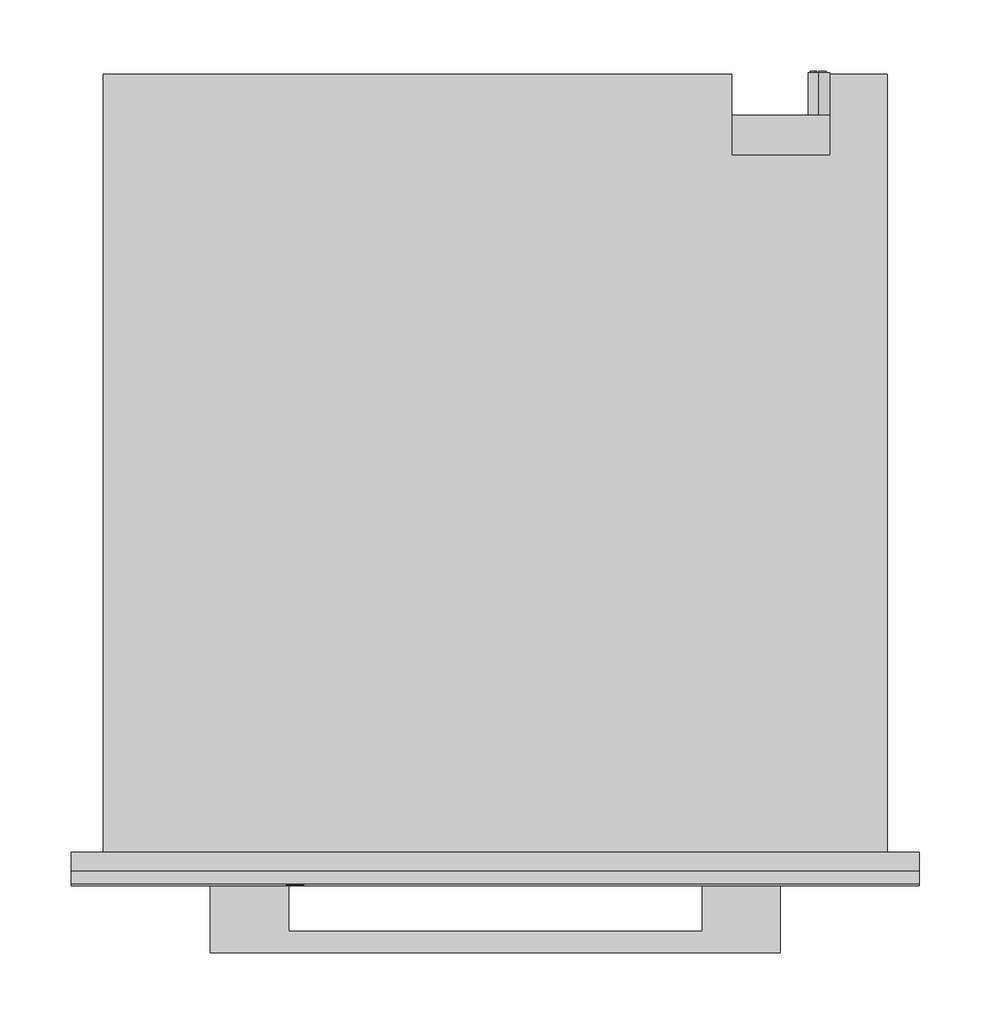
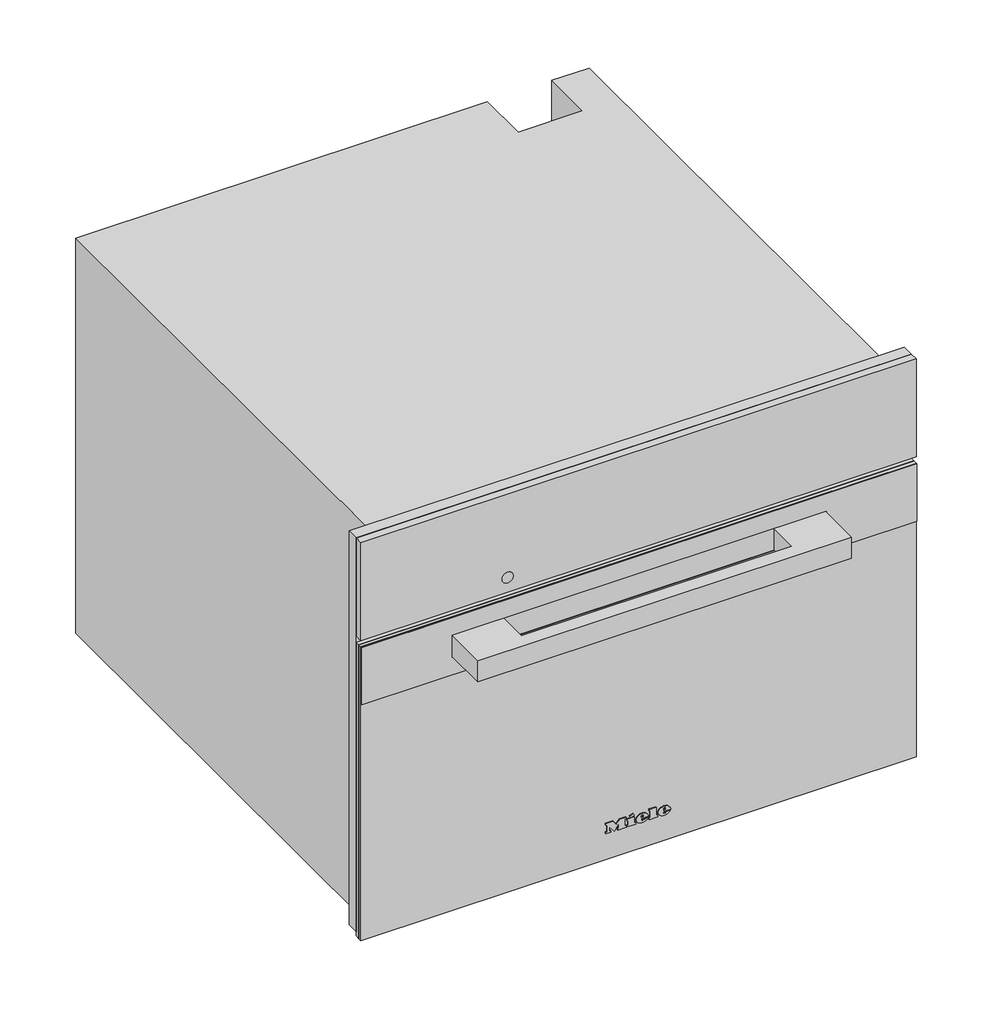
# Not in any storey: 1 proxy.
"""IFC4 building model written with IfcOpenShell, lengths in millimetres."""

import ifcopenshell
import ifcopenshell.guid

model = None  # the IFC model being written
_history = None  # IfcOwnerHistory: only IFC2X3 demands one
_inside = {}  # id of a spatial element -> (the spatial element, [elements in it])
_under = {}  # id of a project, library or spatial element -> (it, [spatial elements below it])
_declared = {}  # id of a project -> (the project, [libraries it declares])
_typed = {}  # id of a type object -> (the type object, [elements of that type])
_made_of = {}  # id of a material, layer set ... -> (it, [elements and type objects made of it])


def new_model(schema):
    """Start an empty IFC model of exactly this schema.

    Asked for "IFC4X3", IfcOpenShell would pick the latest addendum, in which some entities
    have other attributes; the version numbers below select the first issue.
    IFC2X3 requires an IfcOwnerHistory on every rooted entity: one is made here for all.
    """
    global model, _history
    if schema == "IFC4X3":
        model = ifcopenshell.file(schema_version=(4, 3, 0, 0))
    else:
        model = ifcopenshell.file(schema=schema)
    _inside.clear()
    _under.clear()
    _declared.clear()
    _typed.clear()
    _made_of.clear()
    _history = None
    if model.schema == "IFC2X3":
        org = make("IfcOrganization", Name="unknown")
        user = make(
            "IfcPersonAndOrganization",
            ThePerson=make("IfcPerson", FamilyName="unknown"),
            TheOrganization=org,
        )
        app = make(
            "IfcApplication",
            ApplicationDeveloper=org,
            Version="unknown",
            ApplicationFullName="unknown",
            ApplicationIdentifier="unknown",
        )
        _history = make(
            "IfcOwnerHistory",
            OwningUser=user,
            OwningApplication=app,
            ChangeAction="ADDED",
            CreationDate=0,
        )
    return model


def make(cls, **values):
    """One entity of the class cls with the attributes given. An attribute that is None is left unset."""
    return model.create_entity(
        cls, **{name: value for name, value in values.items() if value is not None}
    )


def rooted(cls, **values):
    """An entity with a GlobalId (a new one), such as an element, a storey or a relation."""
    return make(cls, GlobalId=ifcopenshell.guid.new(), OwnerHistory=_history, **values)


def si_unit(unit_type, name, prefix=None):
    """IfcSIUnit, for example si_unit("LENGTHUNIT", "METRE", prefix="MILLI")."""
    return make("IfcSIUnit", UnitType=unit_type, Prefix=prefix, Name=name)


def assignment(units):
    """IfcUnitAssignment: the units of a project."""
    return None if units is None else make("IfcUnitAssignment", Units=units)


def point(xyz):
    """IfcCartesianPoint."""
    return None if xyz is None else make("IfcCartesianPoint", Coordinates=xyz)


def direction(xyz):
    """IfcDirection."""
    return None if xyz is None else make("IfcDirection", DirectionRatios=xyz)


def frame(location, z_axis=None, x_axis=None):
    """IfcAxis2Placement3D, a coordinate frame: its origin and axes. An axis left out is left unset."""
    return make(
        "IfcAxis2Placement3D",
        Location=point(location),
        Axis=direction(z_axis),
        RefDirection=direction(x_axis),
    )


def frame_2d(location, x_axis=None):
    """IfcAxis2Placement2D, a coordinate frame in the plane: its origin and x axis."""
    return make(
        "IfcAxis2Placement2D", Location=point(location), RefDirection=direction(x_axis)
    )


def origin():
    """The frame at (0, 0, 0) with its axes left unset."""
    return frame((0.0, 0.0, 0.0))


def place(relative_to, where):
    """IfcLocalPlacement: puts the frame where relative to a parent placement (None: the world)."""
    return make(
        "IfcLocalPlacement", PlacementRelTo=relative_to, RelativePlacement=where
    )


def context(
    kind, dimensions, precision=None, world=None, true_north=None, identifier=None
):
    """IfcGeometricRepresentationContext, for example the 3D "Model" context."""
    return make(
        "IfcGeometricRepresentationContext",
        ContextIdentifier=identifier,
        ContextType=kind,
        CoordinateSpaceDimension=dimensions,
        Precision=precision,
        WorldCoordinateSystem=world,
        TrueNorth=true_north,
    )


def project(units=None, contexts=None):
    """IfcProject with its units and contexts."""
    return rooted(
        "IfcProject",
        Name="project",
        RepresentationContexts=contexts,
        UnitsInContext=assignment(units),
    )


def spatial(cls, under=None, at=None, **own):
    """A site, building, storey or space (cls), placed at a placement, below another one or the project."""
    s = rooted(cls, ObjectPlacement=at, **own)
    if under is not None:
        _under.setdefault(under.id(), (under, []))[1].append(s)
    return s


def polyline(points):
    """IfcPolyline through the points."""
    return make("IfcPolyline", Points=[point(p) for p in points])


def circle_curve(where, radius):
    """IfcCircle in the frame where."""
    return make("IfcCircle", Position=where, Radius=radius)


def ellipse_curve(where, semi_axis1, semi_axis2):
    """IfcEllipse in the frame where."""
    return make(
        "IfcEllipse", Position=where, SemiAxis1=semi_axis1, SemiAxis2=semi_axis2
    )


def trimmed(basis, trim1, trim2, sense, master):
    """IfcTrimmedCurve: the piece of a basis curve between two trims."""
    return make(
        "IfcTrimmedCurve",
        BasisCurve=basis,
        Trim1=trim1,
        Trim2=trim2,
        SenseAgreement=sense,
        MasterRepresentation=master,
    )


def segment(curve, same_sense, transition):
    """IfcCompositeCurveSegment."""
    return make(
        "IfcCompositeCurveSegment",
        Transition=transition,
        SameSense=same_sense,
        ParentCurve=curve,
    )


def composite_curve(segments, self_intersect=None):
    """IfcCompositeCurve: segments joined end to end."""
    return make("IfcCompositeCurve", Segments=segments, SelfIntersect=self_intersect)


def outline(outer, holes=None, kind="AREA"):
    """IfcArbitraryClosedProfileDef: a profile drawn as a closed curve; with holes, ...WithVoids."""
    if holes is None:
        return make("IfcArbitraryClosedProfileDef", ProfileType=kind, OuterCurve=outer)
    return make(
        "IfcArbitraryProfileDefWithVoids",
        ProfileType=kind,
        OuterCurve=outer,
        InnerCurves=holes,
    )


def extrude(swept, where, along, depth):
    """IfcExtrudedAreaSolid: the profile swept, set in the frame where, extruded along a direction by depth."""
    return make(
        "IfcExtrudedAreaSolid",
        SweptArea=swept,
        Position=where,
        ExtrudedDirection=direction(along),
        Depth=depth,
    )


def faces_of(points, faces, orient=None, outer=None):
    """IfcFace entities. A face is a list of loops; a loop is a list of indices into points, from 0.

    orient and outer hold one flag for each loop. By default every Orientation is true, the
    first loop of a face is its IfcFaceOuterBound and the others are IfcFaceBound.
    """
    made = []
    for i, loops in enumerate(faces):
        bounds = []
        for j, loop in enumerate(loops):
            is_outer = j == 0 if outer is None else outer[i][j]
            bounds.append(
                make(
                    "IfcFaceOuterBound" if is_outer else "IfcFaceBound",
                    Bound=make("IfcPolyLoop", Polygon=[points[k] for k in loop]),
                    Orientation=True if orient is None else orient[i][j],
                )
            )
        made.append(make("IfcFace", Bounds=bounds))
    return made


def faceted_brep(points, faces, orient=None, outer=None, voids=None):
    """IfcFacetedBrep: a solid bounded by flat faces; with voids (closed shells), ...WithVoids."""
    shared = [point(p) for p in points]
    hull = make("IfcClosedShell", CfsFaces=faces_of(shared, faces, orient, outer))
    if voids is None:
        return make("IfcFacetedBrep", Outer=hull)
    return make(
        "IfcFacetedBrepWithVoids",
        Outer=hull,
        Voids=[
            make(cls, CfsFaces=faces_of(shared, fs, o, b)) for cls, fs, o, b in voids
        ],
    )


def shape(context_of_items, identifier, shape_type, items):
    """IfcShapeRepresentation: the items that make up one representation, for example the "Body"."""
    return make(
        "IfcShapeRepresentation",
        ContextOfItems=context_of_items,
        RepresentationIdentifier=identifier,
        RepresentationType=shape_type,
        Items=items,
    )


def source(mapping_origin, context_of_items, identifier, shape_type, items):
    """IfcRepresentationMap: a shape defined once, which mapped items show again and again."""
    return make(
        "IfcRepresentationMap",
        MappingOrigin=mapping_origin,
        MappedRepresentation=shape(context_of_items, identifier, shape_type, items),
    )


def transform(
    local_origin,
    x_axis=None,
    y_axis=None,
    z_axis=None,
    scale=None,
    scale2=None,
    scale3=None,
    uniform=True,
):
    """IfcCartesianTransformationOperator3D, or its non-uniform kind. x_axis, y_axis, z_axis: its Axis1, 2, 3."""
    if uniform:
        return make(
            "IfcCartesianTransformationOperator3D",
            Axis1=direction(x_axis),
            Axis2=direction(y_axis),
            LocalOrigin=point(local_origin),
            Scale=scale,
            Axis3=direction(z_axis),
        )
    return make(
        "IfcCartesianTransformationOperator3DnonUniform",
        Axis1=direction(x_axis),
        Axis2=direction(y_axis),
        LocalOrigin=point(local_origin),
        Scale=scale,
        Axis3=direction(z_axis),
        Scale2=scale2,
        Scale3=scale3,
    )


def mapped(mapping_source, mapping_target):
    """IfcMappedItem: shows the shape of a source again, moved by a transform."""
    return make(
        "IfcMappedItem", MappingSource=mapping_source, MappingTarget=mapping_target
    )


def made_of(thing, what):
    """Note that an element or type object is made of a material, layer set ...; save() writes the relation."""
    if what is not None:
        _made_of.setdefault(what.id(), (what, []))[1].append(thing)
    return thing


def element(
    cls,
    number,
    at=None,
    inside=None,
    cuts=None,
    type_object=None,
    material=None,
    context=None,
    identifier="Body",
    shape_type=None,
    held_by="IfcProductDefinitionShape",
    body=None,
    shapes=None,
    **own,
):
    """One element of the class cls, such as IfcWall. Its Tag is "e" and its number.

    at: its placement. inside: the storey or other place that contains it. cuts: it is an
    opening in that element (IfcRelVoidsElement). A single representation is given by context,
    identifier, shape_type and body (its items); several are given by shapes. held_by: the class
    of the entity that holds the representations. save() writes the other relations.
    """
    e = rooted(cls, Tag="e%d" % number, ObjectPlacement=at, **own)
    if body is not None:
        shapes = [shape(context, identifier, shape_type, body)]
    if shapes is not None:
        e.Representation = make(held_by, Representations=shapes)
    if inside is not None:
        _inside.setdefault(inside.id(), (inside, []))[1].append(e)
    if cuts is not None:
        rooted(
            "IfcRelVoidsElement", RelatingBuildingElement=cuts, RelatedOpeningElement=e
        )
    if type_object is not None:
        _typed.setdefault(type_object.id(), (type_object, []))[1].append(e)
    return made_of(e, material)


def aggregate(whole, parts):
    """IfcRelAggregates: a whole, such as a stair, and the parts it consists of."""
    return rooted("IfcRelAggregates", RelatingObject=whole, RelatedObjects=parts)


def save(model, path):
    """Write the relations noted so far, then the file.

    IfcRelAggregates (storeys below a building ...), IfcRelContainedInSpatialStructure (elements
    in a storey), IfcRelDefinesByType, IfcRelAssociatesMaterial and IfcRelDeclares: one each for
    every whole, place, type object, material and project.
    """
    for whole, parts in _under.values():
        aggregate(whole, parts)
    for where, things in _inside.values():
        rooted(
            "IfcRelContainedInSpatialStructure",
            RelatedElements=things,
            RelatingStructure=where,
        )
    for kind, things in _typed.values():
        rooted("IfcRelDefinesByType", RelatedObjects=things, RelatingType=kind)
    for what, things in _made_of.values():
        rooted("IfcRelAssociatesMaterial", RelatedObjects=things, RelatingMaterial=what)
    for by, libraries in _declared.values():
        rooted("IfcRelDeclares", RelatingContext=by, RelatedDefinitions=libraries)
    model.write(path)


def plane_surface(at):
    """IfcPlane: the flat surface through the origin of the frame at, square to its z axis."""
    return make("IfcPlane", Position=at)


def cylinder_surface(at, radius):
    """IfcCylindricalSurface: all points at the distance radius from the z axis of the frame at."""
    return make("IfcCylindricalSurface", Position=at, Radius=radius)


def revolved_surface(curve, axis_point, axis_direction):
    """IfcSurfaceOfRevolution: the curve turned about the line through axis_point along axis_direction."""
    return make(
        "IfcSurfaceOfRevolution",
        SweptCurve=make("IfcArbitraryOpenProfileDef", ProfileType="CURVE", Curve=curve),
        AxisPosition=make("IfcAxis1Placement", Location=point(axis_point), Axis=direction(axis_direction)),
    )


def extruded_surface(curve, direction_of_extrusion, depth):
    """IfcSurfaceOfLinearExtrusion: the curve pushed along a direction by depth."""
    return make(
        "IfcSurfaceOfLinearExtrusion",
        SweptCurve=make("IfcArbitraryOpenProfileDef", ProfileType="CURVE", Curve=curve),
        ExtrudedDirection=direction(direction_of_extrusion),
        Depth=depth,
    )


def advanced_brep(points, edges, surfaces, faces):
    """IfcAdvancedBrep: a solid bounded by faces that lie on surfaces and meet in shared edges.

    An edge is (start, end): straight between two places in points (the first is 0);
    or (start, end, curve); or (start, end, curve, False) where it runs against its curve.
    A face is (place in surfaces, loops), or (place, loops, False) where it looks against
    its surface's normal. A loop lists edges by number (the first is 1), with a minus sign
    where the edge is run from its end to its start. The first loop is the outer one.
    """
    corners = [point(p) for p in points]
    vertices = [make("IfcVertexPoint", VertexGeometry=c) for c in corners]
    made = []
    for start, end, *more in edges:
        made.append(
            make(
                "IfcEdgeCurve",
                EdgeStart=vertices[start],
                EdgeEnd=vertices[end],
                EdgeGeometry=more[0] if more else make("IfcPolyline", Points=[corners[start], corners[end]]),
                SameSense=more[1] if len(more) > 1 else True,
            )
        )
    hull = []
    for where, loops, *sense in faces:
        bounds = []
        for j, loop in enumerate(loops):
            ring = [make("IfcOrientedEdge", EdgeElement=made[abs(k) - 1], Orientation=k > 0) for k in loop]
            bounds.append(
                make(
                    "IfcFaceOuterBound" if j == 0 else "IfcFaceBound",
                    Bound=make("IfcEdgeLoop", EdgeList=ring),
                    Orientation=True,
                )
            )
        hull.append(make("IfcAdvancedFace", Bounds=bounds, FaceSurface=surfaces[where], SameSense=sense[0] if sense else True))
    return make("IfcAdvancedBrep", Outer=make("IfcClosedShell", CfsFaces=hull))


def specialty_equipment_984b1e7c(model_context):
    return source(origin(), model_context, "Body", "SolidModel", [
        extrude(outline(polyline([(455.0, 297.5), (455.0, -297.5), (9.0, -297.5), (9.0, 297.5), (455.0, 297.5)]), holes=[polyline([(344.0, -272.5), (344.0, 272.5), (27.0, 272.5), (27.0, -272.5), (344.0, -272.5)])]), frame((0.0, -13.0, 0.0), z_axis=(0.0, 1.0, 0.0), x_axis=(0.0, 0.0, 1.0)), (0.0, 0.0, 1.0), 13.0),
        advanced_brep(
        [(227.0, 547.0, 255.5), (227.0, 547.0, 240.5), (221.4098301, 547.0, 243.0), (225.5, 547.0, 243.0), (225.5, 547.0, 253.0), (224.4955303, 547.0, 253.0), (224.4955303, 547.0, 244.0), (221.0315043, 547.0, 244.0), (221.0315043, 547.0, 243.4582978), (232.0, 547.0, 243.0), (232.0, 547.0, 253.0), (227.0, 547.0, 253.0), (227.0, 547.0, 252.0), (231.0, 547.0, 252.0), (231.0, 547.0, 248.5), (228.0, 547.0, 248.5), (228.0, 547.0, 247.5), (231.0, 547.0, 247.5), (231.0, 547.0, 244.0), (227.0, 547.0, 244.0), (227.0, 547.0, 243.0), (227.0, 517.0, 240.5), (227.0, 517.0, 255.5), (232.0, 548.0, 253.0), (232.0, 548.0, 243.0), (227.0, 548.0, 243.0), (227.0, 548.0, 244.0), (231.0, 548.0, 244.0), (231.0, 548.0, 247.5), (228.0, 548.0, 247.5), (228.0, 548.0, 248.5), (231.0, 548.0, 248.5), (231.0, 548.0, 252.0), (227.0, 548.0, 252.0), (227.0, 548.0, 253.0), (225.5, 548.0, 243.0), (221.0315043, 548.0, 243.0), (221.0315043, 548.0, 244.0), (224.4955303, 548.0, 244.0), (224.4955303, 548.0, 253.0), (225.5, 548.0, 253.0), (221.0315043, 547.0, 243.0)],
        [
            (0, 1, circle_curve(frame((227.0, 547.0, 248.0), z_axis=(0.0, 1.0, 0.0), x_axis=(0.0, 0.0, 1.0)), 7.5)),
            (1, 2, circle_curve(frame((227.0, 547.0, 248.0), z_axis=(0.0, 1.0, 0.0), x_axis=(0.0, 0.0, 1.0)), 7.5)),
            (2, 3),
            (3, 4),
            (4, 5),
            (5, 6),
            (6, 7),
            (7, 8),
            (8, 0, circle_curve(frame((227.0, 547.0, 248.0), z_axis=(0.0, 1.0, 0.0), x_axis=(0.0, 0.0, 1.0)), 7.5)),
            (9, 10),
            (10, 11),
            (11, 12),
            (12, 13),
            (13, 14),
            (14, 15),
            (15, 16),
            (16, 17),
            (17, 18),
            (18, 19),
            (19, 20),
            (20, 9),
            (21, 22, circle_curve(frame((227.0, 517.0, 248.0), z_axis=(0.0, -1.0, 0.0), x_axis=(0.0, 0.0, 1.0)), 7.5)),
            (22, 21, circle_curve(frame((227.0, 517.0, 248.0), z_axis=(0.0, -1.0, 0.0), x_axis=(0.0, 0.0, 1.0)), 7.5)),
            (0, 22),
            (21, 1),
            (8, 2, circle_curve(frame((227.0, 547.0, 248.0), z_axis=(0.0, -1.0, 0.0), x_axis=(0.0, 0.0, 1.0)), 7.5)),
            (23, 24),
            (24, 25),
            (25, 26),
            (26, 27),
            (27, 28),
            (28, 29),
            (29, 30),
            (30, 31),
            (31, 32),
            (32, 33),
            (33, 34),
            (34, 23),
            (35, 36),
            (36, 37),
            (37, 38),
            (38, 39),
            (39, 40),
            (40, 35),
            (8, 41),
            (41, 2),
            (23, 10),
            (9, 24),
            (20, 25),
            (19, 26),
            (18, 27),
            (17, 28),
            (16, 29),
            (15, 30),
            (14, 31),
            (13, 32),
            (12, 33),
            (11, 34),
            (35, 3),
            (41, 36),
            (7, 37),
            (6, 38),
            (5, 39),
            (4, 40),
        ],
        [
            plane_surface(frame((227.0, 547.0, 255.5), z_axis=(0.0, 1.0, 0.0), x_axis=(1.0, 0.0, 0.0))),
            plane_surface(frame((227.0, 517.0, 255.5), z_axis=(0.0, -1.0, 0.0), x_axis=(-1.0, 0.0, 0.0))),
            cylinder_surface(frame((227.0, 547.0, 248.0), z_axis=(0.0, -1.0, 0.0), x_axis=(0.0, 0.0, 1.0)), 7.5),
            plane_surface(frame((232.0, 548.0, 253.0), z_axis=(0.0, 1.0, 0.0), x_axis=(0.0, 0.0, -1.0))),
            plane_surface(frame((232.0, 547.0, 253.0), z_axis=(0.0, -1.0, 0.0), x_axis=(0.0, 0.0, 1.0))),
            plane_surface(frame((232.0, 548.0, 253.0), z_axis=(1.0, 0.0, 0.0), x_axis=(0.0, -1.0, 0.0))),
            plane_surface(frame((232.0, 548.0, 243.0), z_axis=(0.0, 0.0, -1.0), x_axis=(0.0, -1.0, 0.0))),
            plane_surface(frame((227.0, 548.0, 243.0), z_axis=(-1.0, 0.0, 0.0), x_axis=(0.0, -1.0, 0.0))),
            plane_surface(frame((227.0, 548.0, 244.0), z_axis=(0.0, 0.0, 1.0), x_axis=(0.0, -1.0, 0.0))),
            plane_surface(frame((231.0, 548.0, 244.0), z_axis=(-1.0, 0.0, 0.0), x_axis=(0.0, -1.0, 0.0))),
            plane_surface(frame((231.0, 548.0, 247.5), z_axis=(0.0, 0.0, -1.0), x_axis=(0.0, -1.0, 0.0))),
            plane_surface(frame((228.0, 548.0, 247.5), z_axis=(-1.0, 0.0, 0.0), x_axis=(0.0, -1.0, 0.0))),
            plane_surface(frame((228.0, 548.0, 248.5), z_axis=(0.0, 0.0, 1.0), x_axis=(0.0, -1.0, 0.0))),
            plane_surface(frame((231.0, 548.0, 248.5), z_axis=(-1.0, 0.0, 0.0), x_axis=(0.0, -1.0, 0.0))),
            plane_surface(frame((231.0, 548.0, 252.0), z_axis=(0.0, 0.0, -1.0), x_axis=(0.0, -1.0, 0.0))),
            plane_surface(frame((227.0, 548.0, 252.0), z_axis=(-1.0, 0.0, 0.0), x_axis=(0.0, -1.0, 0.0))),
            plane_surface(frame((227.0, 548.0, 253.0), z_axis=(0.0, 0.0, 1.0), x_axis=(0.0, -1.0, 0.0))),
            plane_surface(frame((225.5, 548.0, 243.0), z_axis=(0.0, 0.0, -1.0), x_axis=(0.0, -1.0, 0.0))),
            plane_surface(frame((221.0315043, 548.0, 243.0), z_axis=(-1.0, 0.0, 0.0), x_axis=(0.0, -1.0, 0.0))),
            plane_surface(frame((221.0315043, 548.0, 244.0), z_axis=(0.0, 0.0, 1.0), x_axis=(0.0, -1.0, 0.0))),
            plane_surface(frame((224.4955303, 548.0, 244.0), z_axis=(-1.0, 0.0, 0.0), x_axis=(0.0, -1.0, 0.0))),
            plane_surface(frame((224.4955303, 548.0, 253.0), z_axis=(0.0, 0.0, 1.0), x_axis=(0.0, -1.0, 0.0))),
            plane_surface(frame((225.5, 548.0, 253.0), z_axis=(1.0, 0.0, 0.0), x_axis=(0.0, -1.0, 0.0))),
        ],
        [
            (0, [[1, 2, 3, 4, 5, 6, 7, 8, 9], [10, 11, 12, 13, 14, 15, 16, 17, 18, 19, 20, 21]]),
            (1, [[22, 23]]),
            (2, [[-1, 24, -22, 25]]),
            (2, [[-23, -24, -9, 26, -2, -25]]),
            (3, [[27, 28, 29, 30, 31, 32, 33, 34, 35, 36, 37, 38]]),
            (3, [[39, 40, 41, 42, 43, 44]]),
            (4, [[45, 46, -26]]),
            (5, [[-27, 47, -10, 48]]),
            (6, [[-28, -48, -21, 49]]),
            (7, [[-29, -49, -20, 50]]),
            (8, [[-30, -50, -19, 51]]),
            (9, [[-31, -51, -18, 52]]),
            (10, [[-32, -52, -17, 53]]),
            (11, [[-33, -53, -16, 54]]),
            (12, [[-34, -54, -15, 55]]),
            (13, [[-35, -55, -14, 56]]),
            (14, [[-36, -56, -13, 57]]),
            (15, [[-37, -57, -12, 58]]),
            (16, [[-38, -58, -11, -47]]),
            (17, [[-39, 59, -3, -46, 60]]),
            (18, [[-40, -60, -45, -8, 61]]),
            (19, [[-41, -61, -7, 62]]),
            (20, [[-42, -62, -6, 63]]),
            (21, [[-43, -63, -5, 64]]),
            (22, [[-44, -64, -4, -59]]),
        ],
    ),
        faceted_brep([(-275.0, 546.0, 0.0), (-275.0, 546.0, 448.0), (166.0, 546.0, 448.0), (166.0, 546.0, 0.0), (235.0, 546.0, 448.0), (275.0, 546.0, 448.0), (275.0, 546.0, 338.0), (235.0, 546.0, 338.0), (275.0, 0.0, 448.0), (-275.0, 0.0, 448.0), (-275.0, 0.0, 0.0), (275.0, 0.0, 0.0), (-272.5, 0.0, 344.0), (272.5, 0.0, 344.0), (272.5, 0.0, 27.0), (-272.5, 0.0, 27.0), (235.0, 489.0, 448.0), (166.0, 489.0, 448.0), (166.0, 517.0, 0.0), (275.0, 517.0, 0.0), (275.0, 517.0, 338.0), (272.5, 17.0, 344.0), (-272.5, 17.0, 344.0), (-272.5, 17.0, 27.0), (272.5, 17.0, 27.0), (231.0, 17.0, 307.0), (231.0, 17.0, 65.0), (-231.0, 17.0, 65.0), (-231.0, 17.0, 307.0), (231.0, 411.0, 307.0), (-231.0, 411.0, 307.0), (-231.0, 411.0, 65.0), (231.0, 411.0, 65.0), (235.0, 489.0, 337.0), (166.0, 489.0, 337.0), (166.0, 517.0, 337.0), (235.0, 517.0, 337.0), (235.0, 517.0, 338.0)], [[[0, 1, 2, 3]], [[4, 5, 6, 7]], [[8, 9, 10, 11], [12, 13, 14, 15]], [[9, 8, 5, 4, 16, 17, 2, 1]], [[1, 0, 10, 9]], [[11, 10, 0, 3, 18, 19]], [[8, 11, 19, 20, 6, 5]], [[21, 22, 23, 24], [25, 26, 27, 28]], [[22, 21, 13, 12]], [[23, 22, 12, 15]], [[24, 23, 15, 14]], [[21, 24, 14, 13]], [[29, 30, 31, 32]], [[29, 32, 26, 25]], [[32, 31, 27, 26]], [[31, 30, 28, 27]], [[30, 29, 25, 28]], [[16, 33, 34, 17]], [[17, 34, 35, 18, 3, 2]], [[34, 33, 36, 35]], [[33, 16, 4, 7, 37, 36]], [[37, 20, 19, 18, 35, 36]], [[20, 37, 7, 6]]]),
        advanced_brep(
        [(26.2998, -23.0, 36.7018), (26.2998, -23.0, 37.8532), (33.9264, -23.0, 37.8532), (20.6568, -23.0, 37.8532), (23.7918, -23.0, 34.0), (33.7326, -23.0, 36.7018), (30.2898, -23.0, 36.7018), (27.5766, -23.0, 35.425), (26.2998, -23.0, 39.3124), (26.2998, -23.0, 40.555), (28.2492, -23.0, 40.555), (28.2492, -23.0, 39.3124), (26.2998, -22.0, 36.7018), (27.5766, -22.0, 35.425), (30.2898, -22.0, 36.7018), (33.7326, -22.0, 36.7018), (23.7918, -22.0, 34.0), (20.6568, -22.0, 37.8532), (33.9264, -22.0, 37.8532), (26.2998, -22.0, 37.8532), (26.2998, -22.0, 39.3124), (28.2492, -22.0, 39.3124), (28.2492, -22.0, 40.555), (26.2998, -22.0, 40.555)],
        [
            (0, 1),
            (1, 2),
            (2, 3, ellipse_curve(frame((27.2916, -23.0, 37.8532), z_axis=(0.0, -1.0, 0.0), x_axis=(-1.0, 0.0, 0.0)), 6.6348, 5.4834)),
            (3, 4, circle_curve(frame((25.0686622, -23.0, 38.2408), z_axis=(0.0, -1.0, 0.0), x_axis=(0.0, 0.0, -1.0)), 4.4288556)),
            (4, 5, circle_curve(frame((27.1587808, -23.0, 41.2504), z_axis=(0.0, -1.0, 0.0), x_axis=(0.0, 0.0, -1.0)), 7.9940516)),
            (5, 6),
            (6, 7, circle_curve(frame((28.1338588, -23.0, 37.762), z_axis=(0.0, 1.0, 0.0), x_axis=(0.0, 0.0, -1.0)), 2.4025208)),
            (7, 0, circle_curve(frame((27.5766, -23.0, 36.7018), z_axis=(0.0, 1.0, 0.0), x_axis=(0.0, 0.0, -1.0)), 1.2768)),
            (8, 9),
            (9, 10, circle_curve(frame((27.2745, -23.0, 40.555), z_axis=(0.0, 1.0, 0.0), x_axis=(0.0, 0.0, -1.0)), 0.9747)),
            (10, 11),
            (11, 8),
            (12, 13, circle_curve(frame((27.5766, -22.0, 36.7018), z_axis=(0.0, -1.0, 0.0), x_axis=(0.0, 0.0, -1.0)), 1.2768)),
            (13, 14, circle_curve(frame((28.1338588, -22.0, 37.762), z_axis=(0.0, -1.0, 0.0), x_axis=(0.0, 0.0, -1.0)), 2.4025208)),
            (14, 15),
            (15, 16, circle_curve(frame((27.1587808, -22.0, 41.2504), z_axis=(0.0, 1.0, 0.0), x_axis=(0.0, 0.0, -1.0)), 7.9940516)),
            (16, 17, circle_curve(frame((25.0686622, -22.0, 38.2408), z_axis=(0.0, 1.0, 0.0), x_axis=(0.0, 0.0, -1.0)), 4.4288556)),
            (17, 18, ellipse_curve(frame((27.2916, -22.0, 37.8532), z_axis=(0.0, 1.0, 0.0), x_axis=(-1.0, 0.0, 0.0)), 6.6348, 5.4834)),
            (18, 19),
            (19, 12),
            (20, 21),
            (21, 22),
            (22, 23, circle_curve(frame((27.2745, -22.0, 40.555), z_axis=(0.0, -1.0, 0.0), x_axis=(0.0, 0.0, -1.0)), 0.9747)),
            (23, 20),
            (0, 12),
            (19, 1),
            (18, 2),
            (5, 15),
            (14, 6),
            (17, 3),
            (13, 7),
            (16, 4),
            (8, 20),
            (23, 9),
            (22, 10),
            (21, 11),
        ],
        [
            plane_surface(frame((26.2998, -23.0, 37.8532), z_axis=(0.0, -1.0, 0.0), x_axis=(0.0, 0.0, 1.0))),
            plane_surface(frame((26.2998, -22.0, 37.8532), z_axis=(0.0, 1.0, 0.0), x_axis=(0.0, 0.0, -1.0))),
            plane_surface(frame((26.2998, -23.0, 36.7018), z_axis=(1.0, 0.0, 0.0), x_axis=(0.0, 1.0, 0.0))),
            plane_surface(frame((26.2998, -23.0, 37.8532), z_axis=(0.0, 0.0, -1.0), x_axis=(0.0, 1.0, 0.0))),
            plane_surface(frame((33.7326, -23.0, 36.7018), z_axis=(0.0, 0.0, 1.0), x_axis=(0.0, 1.0, 0.0))),
            extruded_surface(trimmed(ellipse_curve(frame((27.2916, -21.0, 37.8532), z_axis=(0.0, -1.0, 0.0), x_axis=(-1.0, 0.0, 0.0)), 6.6348, 5.4834), [point((33.9264, -21.0, 37.8532))], [point((20.6568, -21.0, 37.8532))], True, "CARTESIAN"), (0.0, -1.0, 0.0), 1.0),
            revolved_surface(polyline([(28.1338588, -22.0, 35.3594792), (28.1338588, -23.0, 35.3594792)]), (28.1338588, -22.0, 37.762), (0.0, 1.0, 0.0)),
            revolved_surface(polyline([(27.5766, -22.0, 35.425), (27.5766, -23.0, 35.425)]), (27.5766, -22.0, 36.7018), (0.0, 1.0, 0.0)),
            cylinder_surface(frame((25.0686622, -22.0, 38.2408), z_axis=(0.0, -1.0, 0.0), x_axis=(0.0, 0.0, -1.0)), 4.4288556),
            cylinder_surface(frame((27.1587808, -22.0, 41.2504), z_axis=(0.0, -1.0, 0.0), x_axis=(0.0, 0.0, -1.0)), 7.9940516),
            plane_surface(frame((26.2998, -23.0, 39.3124), z_axis=(1.0, 0.0, 0.0), x_axis=(0.0, 1.0, 0.0))),
            revolved_surface(polyline([(27.2745, -22.0, 39.5803), (27.2745, -23.0, 39.5803)]), (27.2745, -22.0, 40.555), (0.0, 1.0, 0.0)),
            plane_surface(frame((28.2492, -23.0, 40.555), z_axis=(-1.0, 0.0, 0.0), x_axis=(0.0, 1.0, 0.0))),
            plane_surface(frame((28.2492, -23.0, 39.3124), z_axis=(0.0, 0.0, 1.0), x_axis=(0.0, 1.0, 0.0))),
        ],
        [
            (0, [[1, 2, 3, 4, 5, 6, 7, 8], [9, 10, 11, 12]]),
            (1, [[13, 14, 15, 16, 17, 18, 19, 20], [21, 22, 23, 24]]),
            (2, [[-1, 25, -20, 26]]),
            (3, [[-2, -26, -19, 27]]),
            (4, [[-6, 28, -15, 29]]),
            (5, [[-3, -27, -18, 30]]),
            (6, [[-7, -29, -14, 31]]),
            (7, [[-8, -31, -13, -25]]),
            (8, [[-4, -30, -17, 32]]),
            (9, [[-5, -32, -16, -28]]),
            (10, [[-9, 33, -24, 34]]),
            (11, [[-10, -34, -23, 35]]),
            (12, [[-11, -35, -22, 36]]),
            (13, [[-12, -36, -21, -33]]),
        ],
    ),
        advanced_brep(
        [(2.508, -23.0, 36.7018), (2.508, -23.0, 37.8532), (10.1346, -23.0, 37.8532), (-3.135, -23.0, 37.8532), (0.0, -23.0, 34.0), (9.9408, -23.0, 36.7018), (6.498, -23.0, 36.7018), (3.7848, -23.0, 35.425), (2.508, -23.0, 39.3124), (2.508, -23.0, 40.555), (4.4574, -23.0, 40.555), (4.4574, -23.0, 39.3124), (2.508, -22.0, 36.7018), (3.7848, -22.0, 35.425), (6.498, -22.0, 36.7018), (9.9408, -22.0, 36.7018), (0.0, -22.0, 34.0), (-3.135, -22.0, 37.8532), (10.1346, -22.0, 37.8532), (2.508, -22.0, 37.8532), (2.508, -22.0, 39.3124), (4.4574, -22.0, 39.3124), (4.4574, -22.0, 40.555), (2.508, -22.0, 40.555)],
        [
            (0, 1),
            (1, 2),
            (2, 3, ellipse_curve(frame((3.4998, -23.0, 37.8532), z_axis=(0.0, -1.0, 0.0), x_axis=(-1.0, 0.0, 0.0)), 6.6348, 5.4834)),
            (3, 4, circle_curve(frame((1.2768622, -23.0, 38.2408), z_axis=(0.0, -1.0, 0.0), x_axis=(0.0, 0.0, -1.0)), 4.4288556)),
            (4, 5, circle_curve(frame((3.3669808, -23.0, 41.2504), z_axis=(0.0, -1.0, 0.0), x_axis=(0.0, 0.0, -1.0)), 7.9940516)),
            (5, 6),
            (6, 7, circle_curve(frame((4.3420588, -23.0, 37.762), z_axis=(0.0, 1.0, 0.0), x_axis=(0.0, 0.0, -1.0)), 2.4025208)),
            (7, 0, circle_curve(frame((3.7848, -23.0, 36.7018), z_axis=(0.0, 1.0, 0.0), x_axis=(0.0, 0.0, -1.0)), 1.2768)),
            (8, 9),
            (9, 10, circle_curve(frame((3.4827, -23.0, 40.555), z_axis=(0.0, 1.0, 0.0), x_axis=(0.0, 0.0, -1.0)), 0.9747)),
            (10, 11),
            (11, 8),
            (12, 13, circle_curve(frame((3.7848, -22.0, 36.7018), z_axis=(0.0, -1.0, 0.0), x_axis=(0.0, 0.0, -1.0)), 1.2768)),
            (13, 14, circle_curve(frame((4.3420588, -22.0, 37.762), z_axis=(0.0, -1.0, 0.0), x_axis=(0.0, 0.0, -1.0)), 2.4025208)),
            (14, 15),
            (15, 16, circle_curve(frame((3.3669808, -22.0, 41.2504), z_axis=(0.0, 1.0, 0.0), x_axis=(0.0, 0.0, -1.0)), 7.9940516)),
            (16, 17, circle_curve(frame((1.2768622, -22.0, 38.2408), z_axis=(0.0, 1.0, 0.0), x_axis=(0.0, 0.0, -1.0)), 4.4288556)),
            (17, 18, ellipse_curve(frame((3.4998, -22.0, 37.8532), z_axis=(0.0, 1.0, 0.0), x_axis=(-1.0, 0.0, 0.0)), 6.6348, 5.4834)),
            (18, 19),
            (19, 12),
            (20, 21),
            (21, 22),
            (22, 23, circle_curve(frame((3.4827, -22.0, 40.555), z_axis=(0.0, -1.0, 0.0), x_axis=(0.0, 0.0, -1.0)), 0.9747)),
            (23, 20),
            (0, 12),
            (19, 1),
            (18, 2),
            (5, 15),
            (14, 6),
            (17, 3),
            (13, 7),
            (16, 4),
            (8, 20),
            (23, 9),
            (22, 10),
            (21, 11),
        ],
        [
            plane_surface(frame((2.508, -23.0, 37.8532), z_axis=(0.0, -1.0, 0.0), x_axis=(0.0, 0.0, 1.0))),
            plane_surface(frame((2.508, -22.0, 37.8532), z_axis=(0.0, 1.0, 0.0), x_axis=(0.0, 0.0, -1.0))),
            plane_surface(frame((2.508, -23.0, 36.7018), z_axis=(1.0, 0.0, 0.0), x_axis=(0.0, 1.0, 0.0))),
            plane_surface(frame((2.508, -23.0, 37.8532), z_axis=(0.0, 0.0, -1.0), x_axis=(0.0, 1.0, 0.0))),
            plane_surface(frame((9.9408, -23.0, 36.7018), z_axis=(0.0, 0.0, 1.0), x_axis=(0.0, 1.0, 0.0))),
            extruded_surface(trimmed(ellipse_curve(frame((3.4998, -21.0, 37.8532), z_axis=(0.0, -1.0, 0.0), x_axis=(-1.0, 0.0, 0.0)), 6.6348, 5.4834), [point((10.1346, -21.0, 37.8532))], [point((-3.135, -21.0, 37.8532))], True, "CARTESIAN"), (0.0, -1.0, 0.0), 1.0),
            revolved_surface(polyline([(4.3420588, -22.0, 35.3594792), (4.3420588, -23.0, 35.3594792)]), (4.3420588, -22.0, 37.762), (0.0, 1.0, 0.0)),
            revolved_surface(polyline([(3.7848, -22.0, 35.425), (3.7848, -23.0, 35.425)]), (3.7848, -22.0, 36.7018), (0.0, 1.0, 0.0)),
            cylinder_surface(frame((1.2768622, -22.0, 38.2408), z_axis=(0.0, -1.0, 0.0), x_axis=(0.0, 0.0, -1.0)), 4.4288556),
            cylinder_surface(frame((3.3669808, -22.0, 41.2504), z_axis=(0.0, -1.0, 0.0), x_axis=(0.0, 0.0, -1.0)), 7.9940516),
            plane_surface(frame((2.508, -23.0, 39.3124), z_axis=(1.0, 0.0, 0.0), x_axis=(0.0, 1.0, 0.0))),
            revolved_surface(polyline([(3.4827, -22.0, 39.5803), (3.4827, -23.0, 39.5803)]), (3.4827, -22.0, 40.555), (0.0, 1.0, 0.0)),
            plane_surface(frame((4.4574, -23.0, 40.555), z_axis=(-1.0, 0.0, 0.0), x_axis=(0.0, 1.0, 0.0))),
            plane_surface(frame((4.4574, -23.0, 39.3124), z_axis=(0.0, 0.0, 1.0), x_axis=(0.0, 1.0, 0.0))),
        ],
        [
            (0, [[1, 2, 3, 4, 5, 6, 7, 8], [9, 10, 11, 12]]),
            (1, [[13, 14, 15, 16, 17, 18, 19, 20], [21, 22, 23, 24]]),
            (2, [[-1, 25, -20, 26]]),
            (3, [[-2, -26, -19, 27]]),
            (4, [[-6, 28, -15, 29]]),
            (5, [[-3, -27, -18, 30]]),
            (6, [[-7, -29, -14, 31]]),
            (7, [[-8, -31, -13, -25]]),
            (8, [[-4, -30, -17, 32]]),
            (9, [[-5, -32, -16, -28]]),
            (10, [[-9, 33, -24, 34]]),
            (11, [[-10, -34, -23, 35]]),
            (12, [[-11, -35, -22, 36]]),
            (13, [[-12, -36, -21, -33]]),
        ],
    ),
        extrude(outline(polyline([(44.7274, -9.9522), (42.8806, -9.0858), (44.6818, -5.2212), (46.5286, -6.0762), (44.7274, -9.9522)])), frame((0.0, -23.0, 0.0), z_axis=(0.0, 1.0, 0.0), x_axis=(0.0, 0.0, 1.0)), (0.0, 0.0, 1.0), 1.0),
        extrude(outline(polyline([(42.6298, -12.768), (40.5892, -12.768), (40.5892, -11.4114), (35.9152, -11.4114), (35.9152, -12.768), (34.0, -12.768), (34.0, -3.7734), (35.9152, -3.7734), (35.9152, -5.0958), (42.6298, -5.0958), (42.6298, -12.768)])), frame((0.0, -23.0, 0.0), z_axis=(0.0, 1.0, 0.0), x_axis=(0.0, 0.0, 1.0)), (0.0, 0.0, 1.0), 1.0),
        extrude(outline(polyline([(43.5418, 10.773), (43.5418, 12.141), (35.9152, 12.141), (35.9152, 10.773), (34.0, 10.773), (34.0, 20.0184), (35.9152, 20.0184), (35.9152, 18.6162), (45.4, 18.6162), (45.4, 10.773), (43.5418, 10.773)])), frame((0.0, -23.0, 0.0), z_axis=(0.0, 1.0, 0.0), x_axis=(0.0, 0.0, 1.0)), (0.0, 0.0, 1.0), 1.0),
        extrude(outline(polyline([(43.5418, -35.4882), (43.5418, -34.1088), (35.9152, -34.1088), (35.9152, -35.4882), (34.0, -35.4882), (34.0, -30.4722), (35.9152, -30.4722), (35.9152, -31.8402), (40.7429247, -31.8402), (34.0, -26.7444), (40.9402223, -21.6258), (35.9152, -21.6258), (35.9152, -23.028), (34.0, -23.028), (34.0, -13.9308), (35.9152, -13.9308), (35.9152, -15.3786), (43.5418, -15.3786), (43.5418, -13.9308), (45.4, -13.9308), (45.4, -20.8734), (41.125, -24.2022), (45.4, -27.5424), (45.4, -35.4882), (43.5418, -35.4882)])), frame((0.0, -23.0, 0.0), z_axis=(0.0, 1.0, 0.0), x_axis=(0.0, 0.0, 1.0)), (0.0, 0.0, 1.0), 1.0),
        extrude(outline(polyline([(297.5, -22.0), (-297.5, -22.0), (-297.5, -13.0), (297.5, -13.0), (297.5, -22.0)])), frame((0.0, 0.0, 344.0), z_axis=(0.0, 0.0, 1.0), x_axis=(1.0, 0.0, 0.0)), (0.0, 0.0, 1.0), 111.0),
        extrude(outline(composite_curve([segment(trimmed(circle_curve(frame_2d((361.0, -140.5745637)), 6.0), [point((361.0, -146.5745637))], [point((361.0, -134.5745637))], False, "CARTESIAN"), True, "CONTINUOUS"), segment(trimmed(circle_curve(frame_2d((361.0, -140.5745637)), 6.0), [point((361.0, -134.5745637))], [point((361.0, -146.5745637))], False, "CARTESIAN"), True, "CONTINUOUS")], self_intersect=False)), frame((0.0, -22.5, 0.0), z_axis=(0.0, 1.0, 0.0), x_axis=(0.0, 0.0, 1.0)), (0.0, 0.0, 1.0), 1.0),
        extrude(outline(polyline([(297.5, -18.0), (-297.5, -18.0), (-297.5, -13.0), (297.5, -13.0), (297.5, -18.0)])), frame((0.0, 0.0, 4.0), z_axis=(0.0, 0.0, 1.0), x_axis=(1.0, 0.0, 0.0)), (0.0, 0.0, 1.0), 333.0),
        extrude(outline(polyline([(-297.5, -18.0), (297.5, -18.0), (297.5, -22.0), (-297.5, -22.0), (-297.5, -18.0)])), frame((0.0, 0.0, 4.0), z_axis=(0.0, 0.0, 1.0), x_axis=(1.0, 0.0, 0.0)), (0.0, 0.0, 1.0), 333.0),
        extrude(outline(polyline([(-200.0, -70.3), (-200.0, -22.0), (-145.0, -22.0), (-145.0, -55.3), (145.0, -55.3), (145.0, -22.0), (200.0, -22.0), (200.0, -70.3), (-200.0, -70.3)])), frame((0.0, 0.0, 292.5), z_axis=(0.0, 0.0, 1.0), x_axis=(1.0, 0.0, 0.0)), (0.0, 0.0, 1.0), 24.0),
        extrude(outline(polyline([(337.0, 297.5), (337.0, -297.5), (272.0, -297.5), (272.0, 297.5), (337.0, 297.5)]), holes=[polyline([(317.0, -200.5), (317.0, 200.5), (292.0, 200.5), (292.0, -200.5), (317.0, -200.5)])]), frame((0.0, -23.3, 0.0), z_axis=(0.0, 1.0, 0.0), x_axis=(0.0, 0.0, 1.0)), (0.0, 0.0, 1.0), 1.3),
    ])


model = new_model("IFC4")

# Units and contexts
model_context = context("Model", 3, world=origin())
ifc_project = project(units=[si_unit("LENGTHUNIT", "METRE", prefix="MILLI")], contexts=[model_context])

# Site, building
site = spatial("IfcSite", under=ifc_project)
building = spatial("IfcBuilding", under=site)

# Proxy
placement = place(None, origin())
specialty_equipment_shape = specialty_equipment_984b1e7c(model_context)
element("IfcBuildingElementProxy", 1, Name="12118420_SER_DGC7440HCPro_EDST-C : 23744048_SER_12118420_DGC7440HCPro_EDST-C", ObjectType="12118420_SER_DGC7440HCPro_EDST-C : 23744048_SER_12118420_DGC7440HCPro_EDST-C", at=placement, inside=building, context=model_context, shape_type="MappedRepresentation", body=[
    mapped(specialty_equipment_shape, transform((0.0, 0.0, 0.0), x_axis=(1.0, 0.0, 0.0), y_axis=(0.0, 1.0, 0.0), z_axis=(0.0, 0.0, 1.0))),
])

save(model, "model.ifc")
